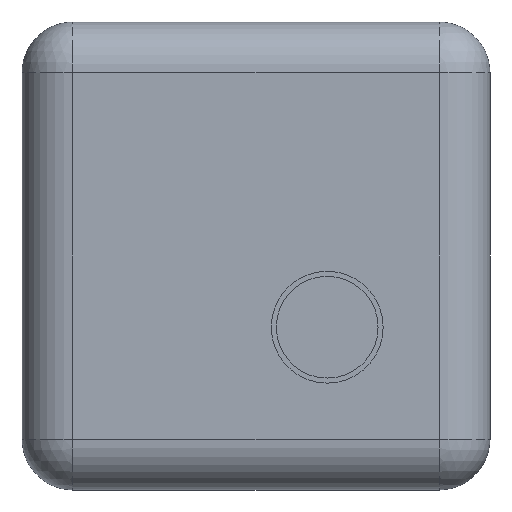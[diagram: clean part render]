
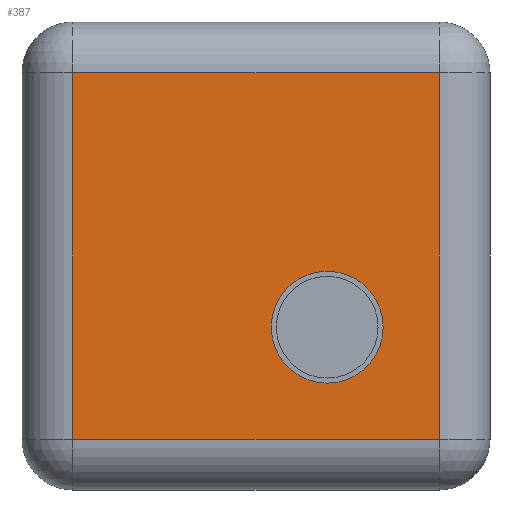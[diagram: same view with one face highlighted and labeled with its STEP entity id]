
A CAD part, front view. The second image highlights one B-rep face of the part: STEP entity #387.
In plain terms, the highlighted planar face has unit normal (0, -1, 0).
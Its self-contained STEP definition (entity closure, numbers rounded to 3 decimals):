
#84=CARTESIAN_POINT('',(12.25,-3.,8.0));
#85=VERTEX_POINT('',#84);
#86=CARTESIAN_POINT('',(15.0,-3.,8.0));
#87=DIRECTION('',(0.0,1.0,0.0));
#88=DIRECTION('',(1.0,0.0,0.0));
#89=AXIS2_PLACEMENT_3D('',#86,#87,#88);
#90=CIRCLE('',#89,2.75);
#91=EDGE_CURVE('',#85,#85,#90,.T.);
#150=CARTESIAN_POINT('',(20.5,-3.,20.5));
#151=VERTEX_POINT('',#150);
#185=CARTESIAN_POINT('',(20.5,-3.,2.5));
#186=VERTEX_POINT('',#185);
#222=CARTESIAN_POINT('',(2.5,-3.,20.5));
#223=VERTEX_POINT('',#222);
#257=CARTESIAN_POINT('',(2.5,-3.,2.5));
#258=VERTEX_POINT('',#257);
#298=CARTESIAN_POINT('',(20.5,-3.,20.5));
#299=DIRECTION('',(-1.0,0.0,0.0));
#300=VECTOR('',#299,18.);
#301=LINE('',#298,#300);
#302=EDGE_CURVE('',#151,#223,#301,.T.);
#313=CARTESIAN_POINT('',(20.5,-3.,2.5));
#314=DIRECTION('',(0.0,0.0,1.0));
#315=VECTOR('',#314,18.);
#316=LINE('',#313,#315);
#317=EDGE_CURVE('',#186,#151,#316,.T.);
#342=CARTESIAN_POINT('',(2.5,-3.,20.5));
#343=DIRECTION('',(0.0,0.0,-1.0));
#344=VECTOR('',#343,18.);
#345=LINE('',#342,#344);
#346=EDGE_CURVE('',#223,#258,#345,.T.);
#357=CARTESIAN_POINT('',(2.5,-3.,2.5));
#358=DIRECTION('',(1.0,0.0,0.0));
#359=VECTOR('',#358,18.);
#360=LINE('',#357,#359);
#361=EDGE_CURVE('',#258,#186,#360,.T.);
#373=CARTESIAN_POINT('',(11.5,-3.,11.5));
#374=DIRECTION('',(0.0,-1.0,0.0));
#375=DIRECTION('',(0.0,0.0,-1.0));
#376=AXIS2_PLACEMENT_3D('',#373,#374,#375);
#377=PLANE('',#376);
#378=ORIENTED_EDGE('',*,*,#361,.T.);
#379=ORIENTED_EDGE('',*,*,#317,.T.);
#380=ORIENTED_EDGE('',*,*,#302,.T.);
#381=ORIENTED_EDGE('',*,*,#346,.T.);
#382=EDGE_LOOP('',(#378,#379,#380,#381));
#383=FACE_OUTER_BOUND('',#382,.T.);
#384=ORIENTED_EDGE('',*,*,#91,.T.);
#385=EDGE_LOOP('',(#384));
#386=FACE_BOUND('',#385,.T.);
#387=ADVANCED_FACE('',(#383,#386),#377,.T.);
